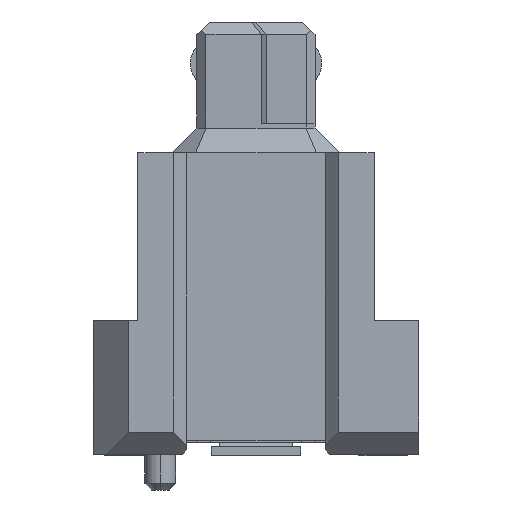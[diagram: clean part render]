
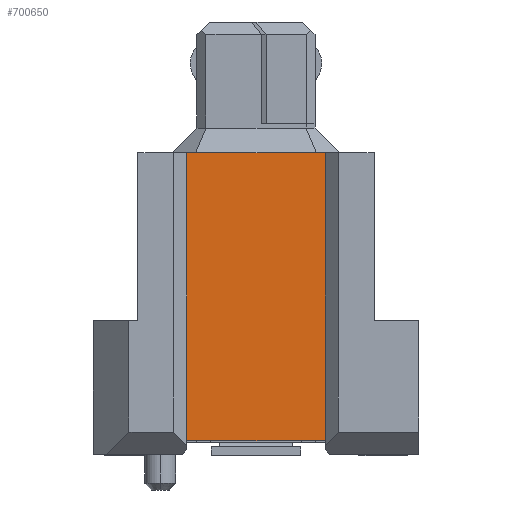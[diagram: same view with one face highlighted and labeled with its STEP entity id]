
A CAD part, left-side view. The second image highlights one B-rep face of the part: STEP entity #700650.
In plain terms, the highlighted planar face has unit normal (-1, 0, 0).
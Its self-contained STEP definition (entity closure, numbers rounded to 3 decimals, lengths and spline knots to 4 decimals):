
#68040=CARTESIAN_POINT('',(-10.0318,-5.0602,1.1));
#68050=VERTEX_POINT('',#68040);
#68080=CARTESIAN_POINT('',(-10.0318,-5.0602,0.));
#68090=DIRECTION('',(0.,0.,-1.));
#68100=VECTOR('',#68090,1.);
#68110=LINE('',#68080,#68100);
#68120=CARTESIAN_POINT('',(-10.0318,-5.0602,4.2));
#68130=VERTEX_POINT('',#68120);
#68140=EDGE_CURVE('',#68130,#68050,#68110,.T.);
#172710=CARTESIAN_POINT('',(-10.0318,1.4098,4.2));
#172720=VERTEX_POINT('',#172710);
#172750=CARTESIAN_POINT('',(-10.0318,1.4098,0.));
#172760=DIRECTION('',(0.,0.,1.));
#172770=VECTOR('',#172760,1.);
#172780=LINE('',#172750,#172770);
#172790=CARTESIAN_POINT('',(-10.0318,1.4098,1.1));
#172800=VERTEX_POINT('',#172790);
#172810=EDGE_CURVE('',#172800,#172720,#172780,.T.);
#700400=CARTESIAN_POINT('',(-10.0318,0.,1.1));
#700410=DIRECTION('',(0.,-1.,0.));
#700420=VECTOR('',#700410,1.);
#700430=LINE('',#700400,#700420);
#700440=EDGE_CURVE('',#172800,#68050,#700430,.T.);
#700490=CARTESIAN_POINT('',(-10.0318,-5.3602,5.3));
#700500=DIRECTION('',(-1.,0.,0.));
#700510=DIRECTION('',(0.,1.,0.));
#700520=AXIS2_PLACEMENT_3D('',#700490,#700500,#700510);
#700530=PLANE('',#700520);
#700540=ORIENTED_EDGE('',*,*,#700440,.T.);
#700550=ORIENTED_EDGE('',*,*,#172810,.F.);
#700560=CARTESIAN_POINT('',(-10.0318,0.,4.2));
#700570=DIRECTION('',(0.,-1.,0.));
#700580=VECTOR('',#700570,1.);
#700590=LINE('',#700560,#700580);
#700600=EDGE_CURVE('',#172720,#68130,#700590,.T.);
#700610=ORIENTED_EDGE('',*,*,#700600,.F.);
#700620=ORIENTED_EDGE('',*,*,#68140,.F.);
#700630=EDGE_LOOP('',(#700620,#700610,#700550,#700540));
#700640=FACE_OUTER_BOUND('',#700630,.T.);
#700650=ADVANCED_FACE('',(#700640),#700530,.T.);
